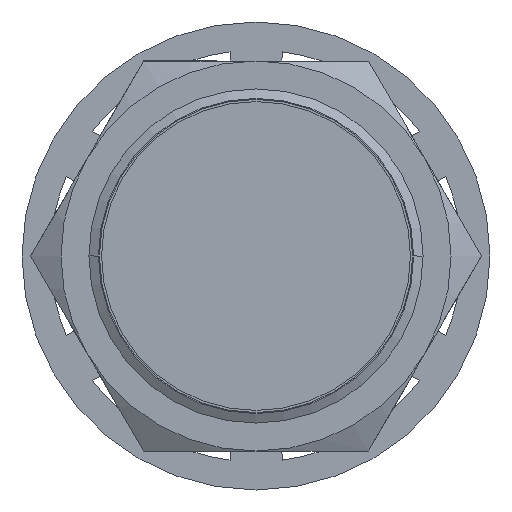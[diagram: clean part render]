
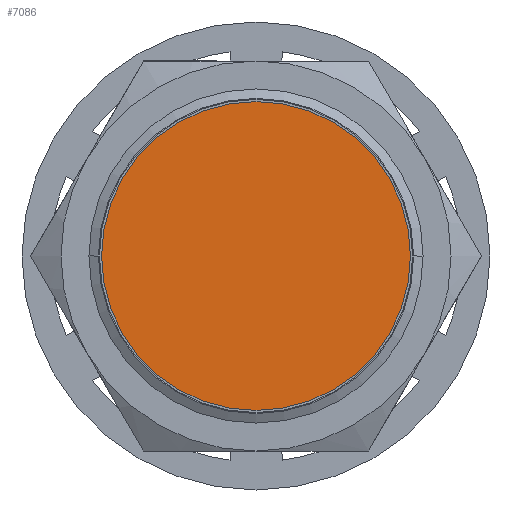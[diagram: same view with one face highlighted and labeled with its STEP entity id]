
A CAD part, left-side view. The second image highlights one B-rep face of the part: STEP entity #7086.
In plain terms, the highlighted planar face has unit normal (-1, 0, 0).
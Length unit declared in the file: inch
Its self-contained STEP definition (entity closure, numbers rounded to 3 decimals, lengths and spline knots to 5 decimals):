
#625 = VERTEX_POINT ( 'NONE', #10792 ) ;
#862 = VERTEX_POINT ( 'NONE', #10886 ) ;
#1107 = EDGE_CURVE ( 'NONE', #862, #625, #11011, .T. ) ;
#1123 = FACE_OUTER_BOUND ( 'NONE', #6828, .T. ) ;
#1124 = PLANE ( 'NONE',  #1127 ) ;
#1127 = AXIS2_PLACEMENT_3D ( 'NONE', #1128, #1129, #1130 ) ;
#1128 = CARTESIAN_POINT ( 'NONE',  ( 8.13765, 8.0391, -0.591 ) ) ;
#1129 = DIRECTION ( 'NONE',  ( -1., 0., 0. ) ) ;
#1130 = DIRECTION ( 'NONE',  ( 0., 0., 1. ) ) ;
#5304 = EDGE_CURVE ( 'NONE', #625, #862, #13105, .T. ) ;
#5710 = ORIENTED_EDGE ( 'NONE', *, *, #5304, .F. ) ;
#6271 = ORIENTED_EDGE ( 'NONE', *, *, #1107, .F. ) ;
#6828 = EDGE_LOOP ( 'NONE', ( #6271, #5710 ) ) ;
#7086 = ADVANCED_FACE ( 'NONE', ( #1123 ), #1124, .T. ) ;
#10792 = CARTESIAN_POINT ( 'NONE',  ( 8.13765, 8.0391, -0.0445 ) ) ;
#10886 = CARTESIAN_POINT ( 'NONE',  ( 8.13765, 8.0391, -1.1375 ) ) ;
#11011 = CIRCLE ( 'NONE', #11012, 0.5465 ) ;
#11012 = AXIS2_PLACEMENT_3D ( 'NONE', #11013, #11014, #11015 ) ;
#11013 = CARTESIAN_POINT ( 'NONE',  ( 8.13765, 8.0391, -0.591 ) ) ;
#11014 = DIRECTION ( 'NONE',  ( 1., 0., 0. ) ) ;
#11015 = DIRECTION ( 'NONE',  ( 0., 0., -1. ) ) ;
#13105 = CIRCLE ( 'NONE', #13106, 0.5465 ) ;
#13106 = AXIS2_PLACEMENT_3D ( 'NONE', #13107, #13108, #13109 ) ;
#13107 = CARTESIAN_POINT ( 'NONE',  ( 8.13765, 8.0391, -0.591 ) ) ;
#13108 = DIRECTION ( 'NONE',  ( 1., 0., 0. ) ) ;
#13109 = DIRECTION ( 'NONE',  ( 0., 0., -1. ) ) ;
